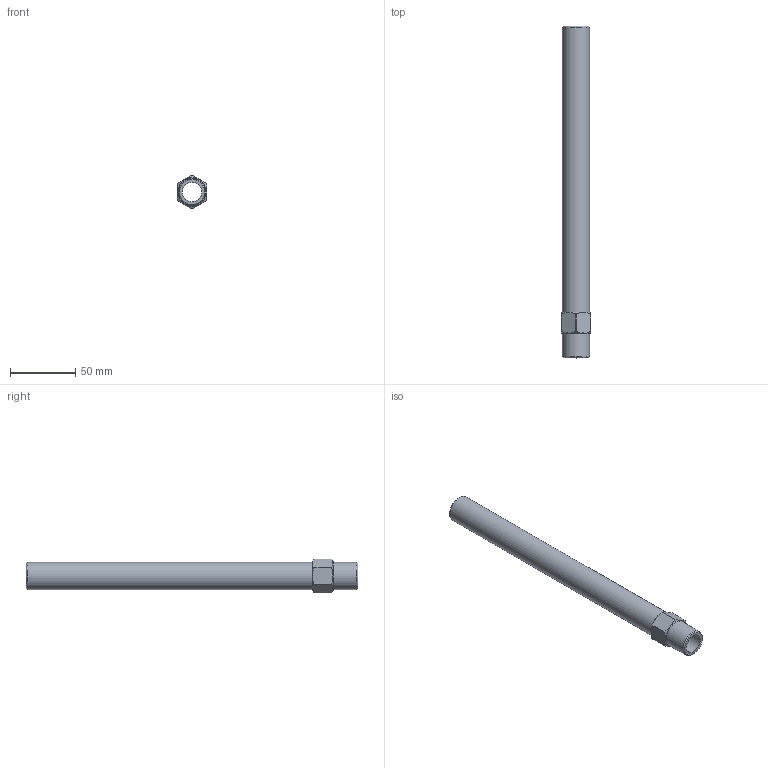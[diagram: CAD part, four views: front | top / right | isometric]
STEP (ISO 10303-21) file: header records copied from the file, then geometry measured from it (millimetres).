
FILE_DESCRIPTION(/* description */ (''),/* implementation_level */ '2;1');
FILE_NAME(/* name */ 'C:/Users/drich/Desktop/APN12-10 v1.step',/* time_stamp */ '2019-12-27T17:42:10-06:00',/* author */ (''),/* organization */ (''),/* preprocessor_version */ 'ST-DEVELOPER v18',/* originating_system */ 'Autodesk Translation Framework v8.12.0.6',/* authorisation */ '');
FILE_SCHEMA (('AUTOMOTIVE_DESIGN { 1 0 10303 214 3 1 1 }'));
Length unit declared in the file: inch
Products named in the file (1): APN12-10
Bounding box: 22.23 x 254 x 25.65 mm (x, y, z)
Volume: 42619.3 mm3; surface area: 29170.3 mm2
Topology: 1 solids, 1 shells, 23 faces, 59 edges, 40 vertices
Faces by surface type: plane 10, cylinder 9, cone 4
Full cylindrical faces by diameter (mm): 15.037 x1, 20.813 x2
Entity records: 751 total; most frequent: CARTESIAN_POINT 147, DIRECTION 123, ORIENTED_EDGE 118, EDGE_CURVE 59, AXIS2_PLACEMENT_3D 52, VERTEX_POINT 40, CIRCLE 28, EDGE_LOOP 27
